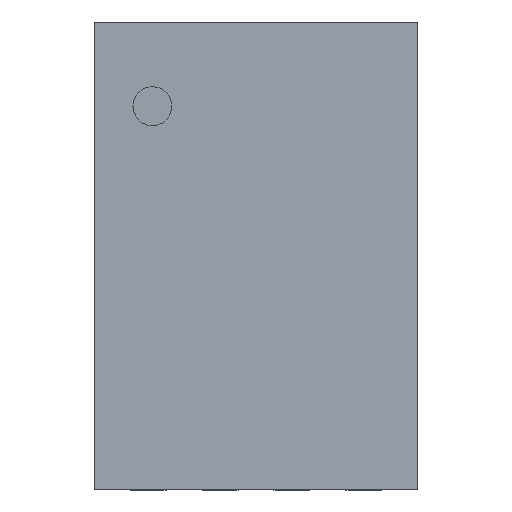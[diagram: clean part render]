
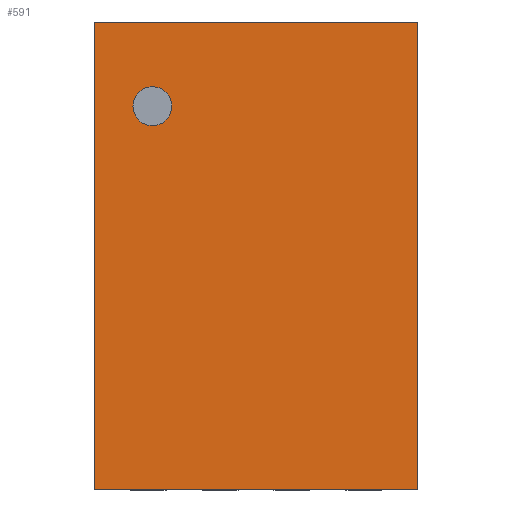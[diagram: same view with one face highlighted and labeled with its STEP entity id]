
A CAD part, top view. The second image highlights one B-rep face of the part: STEP entity #591.
In plain terms, the highlighted planar face has unit normal (0, 0, 1).
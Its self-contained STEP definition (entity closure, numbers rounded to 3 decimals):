
#47 = EDGE_CURVE('',#48,#50,#52,.T.);
#48 = VERTEX_POINT('',#49);
#49 = CARTESIAN_POINT('',(-0.9,-1.3,0.5));
#50 = VERTEX_POINT('',#51);
#51 = CARTESIAN_POINT('',(-0.9,1.3,0.5));
#52 = SURFACE_CURVE('',#53,(#57,#69),.PCURVE_S1.);
#53 = LINE('',#54,#55);
#54 = CARTESIAN_POINT('',(-0.9,-1.3,0.5));
#55 = VECTOR('',#56,1.);
#56 = DIRECTION('',(0.,1.,0.));
#57 = PCURVE('',#58,#63);
#58 = PLANE('',#59);
#59 = AXIS2_PLACEMENT_3D('',#60,#61,#62);
#60 = CARTESIAN_POINT('',(-0.9,-1.3,0.025));
#61 = DIRECTION('',(1.,0.,0.));
#62 = DIRECTION('',(0.,0.,1.));
#63 = DEFINITIONAL_REPRESENTATION('',(#64),#68);
#64 = LINE('',#65,#66);
#65 = CARTESIAN_POINT('',(0.475,0.));
#66 = VECTOR('',#67,1.);
#67 = DIRECTION('',(0.,-1.));
#68 = ( GEOMETRIC_REPRESENTATION_CONTEXT(2) 
PARAMETRIC_REPRESENTATION_CONTEXT() REPRESENTATION_CONTEXT('2D SPACE',''
  ) );
#69 = PCURVE('',#70,#75);
#70 = PLANE('',#71);
#71 = AXIS2_PLACEMENT_3D('',#72,#73,#74);
#72 = CARTESIAN_POINT('',(-0.9,-1.3,0.5));
#73 = DIRECTION('',(0.,0.,1.));
#74 = DIRECTION('',(1.,0.,0.));
#75 = DEFINITIONAL_REPRESENTATION('',(#76),#80);
#76 = LINE('',#77,#78);
#77 = CARTESIAN_POINT('',(0.,0.));
#78 = VECTOR('',#79,1.);
#79 = DIRECTION('',(0.,1.));
#80 = ( GEOMETRIC_REPRESENTATION_CONTEXT(2) 
PARAMETRIC_REPRESENTATION_CONTEXT() REPRESENTATION_CONTEXT('2D SPACE',''
  ) );
#98 = PLANE('',#99);
#99 = AXIS2_PLACEMENT_3D('',#100,#101,#102);
#100 = CARTESIAN_POINT('',(-0.9,-1.3,0.025));
#101 = DIRECTION('',(0.,1.,0.));
#102 = DIRECTION('',(0.,0.,1.));
#580 = PLANE('',#581);
#581 = AXIS2_PLACEMENT_3D('',#582,#583,#584);
#582 = CARTESIAN_POINT('',(-0.9,1.3,0.025));
#583 = DIRECTION('',(0.,1.,0.));
#584 = DIRECTION('',(0.,0.,1.));
#591 = ADVANCED_FACE('',(#592,#667),#70,.T.);
#592 = FACE_BOUND('',#593,.T.);
#593 = EDGE_LOOP('',(#594,#595,#618,#646));
#594 = ORIENTED_EDGE('',*,*,#47,.F.);
#595 = ORIENTED_EDGE('',*,*,#596,.T.);
#596 = EDGE_CURVE('',#48,#597,#599,.T.);
#597 = VERTEX_POINT('',#598);
#598 = CARTESIAN_POINT('',(0.9,-1.3,0.5));
#599 = SURFACE_CURVE('',#600,(#604,#611),.PCURVE_S1.);
#600 = LINE('',#601,#602);
#601 = CARTESIAN_POINT('',(-0.9,-1.3,0.5));
#602 = VECTOR('',#603,1.);
#603 = DIRECTION('',(1.,0.,0.));
#604 = PCURVE('',#70,#605);
#605 = DEFINITIONAL_REPRESENTATION('',(#606),#610);
#606 = LINE('',#607,#608);
#607 = CARTESIAN_POINT('',(0.,0.));
#608 = VECTOR('',#609,1.);
#609 = DIRECTION('',(1.,0.));
#610 = ( GEOMETRIC_REPRESENTATION_CONTEXT(2) 
PARAMETRIC_REPRESENTATION_CONTEXT() REPRESENTATION_CONTEXT('2D SPACE',''
  ) );
#611 = PCURVE('',#98,#612);
#612 = DEFINITIONAL_REPRESENTATION('',(#613),#617);
#613 = LINE('',#614,#615);
#614 = CARTESIAN_POINT('',(0.475,0.));
#615 = VECTOR('',#616,1.);
#616 = DIRECTION('',(0.,1.));
#617 = ( GEOMETRIC_REPRESENTATION_CONTEXT(2) 
PARAMETRIC_REPRESENTATION_CONTEXT() REPRESENTATION_CONTEXT('2D SPACE',''
  ) );
#618 = ORIENTED_EDGE('',*,*,#619,.T.);
#619 = EDGE_CURVE('',#597,#620,#622,.T.);
#620 = VERTEX_POINT('',#621);
#621 = CARTESIAN_POINT('',(0.9,1.3,0.5));
#622 = SURFACE_CURVE('',#623,(#627,#634),.PCURVE_S1.);
#623 = LINE('',#624,#625);
#624 = CARTESIAN_POINT('',(0.9,-1.3,0.5));
#625 = VECTOR('',#626,1.);
#626 = DIRECTION('',(0.,1.,0.));
#627 = PCURVE('',#70,#628);
#628 = DEFINITIONAL_REPRESENTATION('',(#629),#633);
#629 = LINE('',#630,#631);
#630 = CARTESIAN_POINT('',(1.8,0.));
#631 = VECTOR('',#632,1.);
#632 = DIRECTION('',(0.,1.));
#633 = ( GEOMETRIC_REPRESENTATION_CONTEXT(2) 
PARAMETRIC_REPRESENTATION_CONTEXT() REPRESENTATION_CONTEXT('2D SPACE',''
  ) );
#634 = PCURVE('',#635,#640);
#635 = PLANE('',#636);
#636 = AXIS2_PLACEMENT_3D('',#637,#638,#639);
#637 = CARTESIAN_POINT('',(0.9,-1.3,0.025));
#638 = DIRECTION('',(1.,0.,0.));
#639 = DIRECTION('',(0.,0.,1.));
#640 = DEFINITIONAL_REPRESENTATION('',(#641),#645);
#641 = LINE('',#642,#643);
#642 = CARTESIAN_POINT('',(0.475,0.));
#643 = VECTOR('',#644,1.);
#644 = DIRECTION('',(0.,-1.));
#645 = ( GEOMETRIC_REPRESENTATION_CONTEXT(2) 
PARAMETRIC_REPRESENTATION_CONTEXT() REPRESENTATION_CONTEXT('2D SPACE',''
  ) );
#646 = ORIENTED_EDGE('',*,*,#647,.F.);
#647 = EDGE_CURVE('',#50,#620,#648,.T.);
#648 = SURFACE_CURVE('',#649,(#653,#660),.PCURVE_S1.);
#649 = LINE('',#650,#651);
#650 = CARTESIAN_POINT('',(-0.9,1.3,0.5));
#651 = VECTOR('',#652,1.);
#652 = DIRECTION('',(1.,0.,0.));
#653 = PCURVE('',#70,#654);
#654 = DEFINITIONAL_REPRESENTATION('',(#655),#659);
#655 = LINE('',#656,#657);
#656 = CARTESIAN_POINT('',(0.,2.6));
#657 = VECTOR('',#658,1.);
#658 = DIRECTION('',(1.,0.));
#659 = ( GEOMETRIC_REPRESENTATION_CONTEXT(2) 
PARAMETRIC_REPRESENTATION_CONTEXT() REPRESENTATION_CONTEXT('2D SPACE',''
  ) );
#660 = PCURVE('',#580,#661);
#661 = DEFINITIONAL_REPRESENTATION('',(#662),#666);
#662 = LINE('',#663,#664);
#663 = CARTESIAN_POINT('',(0.475,0.));
#664 = VECTOR('',#665,1.);
#665 = DIRECTION('',(0.,1.));
#666 = ( GEOMETRIC_REPRESENTATION_CONTEXT(2) 
PARAMETRIC_REPRESENTATION_CONTEXT() REPRESENTATION_CONTEXT('2D SPACE',''
  ) );
#667 = FACE_BOUND('',#668,.T.);
#668 = EDGE_LOOP('',(#669));
#669 = ORIENTED_EDGE('',*,*,#670,.F.);
#670 = EDGE_CURVE('',#671,#671,#673,.T.);
#671 = VERTEX_POINT('',#672);
#672 = CARTESIAN_POINT('',(-0.468,0.832,0.5));
#673 = SURFACE_CURVE('',#674,(#679,#686),.PCURVE_S1.);
#674 = CIRCLE('',#675,0.108);
#675 = AXIS2_PLACEMENT_3D('',#676,#677,#678);
#676 = CARTESIAN_POINT('',(-0.576,0.832,0.5));
#677 = DIRECTION('',(0.,0.,1.));
#678 = DIRECTION('',(1.,0.,0.));
#679 = PCURVE('',#70,#680);
#680 = DEFINITIONAL_REPRESENTATION('',(#681),#685);
#681 = CIRCLE('',#682,0.108);
#682 = AXIS2_PLACEMENT_2D('',#683,#684);
#683 = CARTESIAN_POINT('',(0.324,2.132));
#684 = DIRECTION('',(1.,0.));
#685 = ( GEOMETRIC_REPRESENTATION_CONTEXT(2) 
PARAMETRIC_REPRESENTATION_CONTEXT() REPRESENTATION_CONTEXT('2D SPACE',''
  ) );
#686 = PCURVE('',#687,#692);
#687 = CYLINDRICAL_SURFACE('',#688,0.108);
#688 = AXIS2_PLACEMENT_3D('',#689,#690,#691);
#689 = CARTESIAN_POINT('',(-0.576,0.832,0.494));
#690 = DIRECTION('',(-0.,-0.,-1.));
#691 = DIRECTION('',(1.,0.,0.));
#692 = DEFINITIONAL_REPRESENTATION('',(#693),#697);
#693 = LINE('',#694,#695);
#694 = CARTESIAN_POINT('',(-0.,-0.006));
#695 = VECTOR('',#696,1.);
#696 = DIRECTION('',(-1.,0.));
#697 = ( GEOMETRIC_REPRESENTATION_CONTEXT(2) 
PARAMETRIC_REPRESENTATION_CONTEXT() REPRESENTATION_CONTEXT('2D SPACE',''
  ) );
